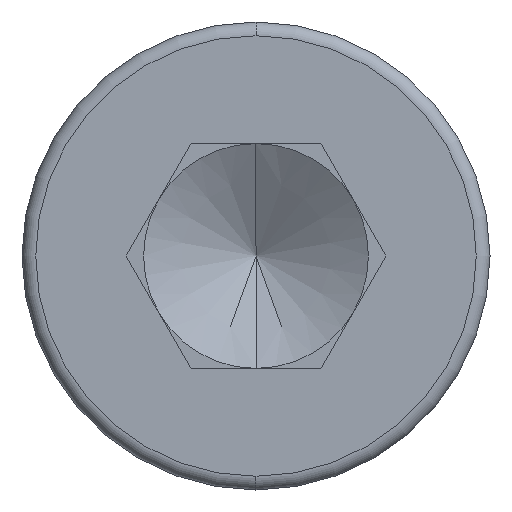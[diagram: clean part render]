
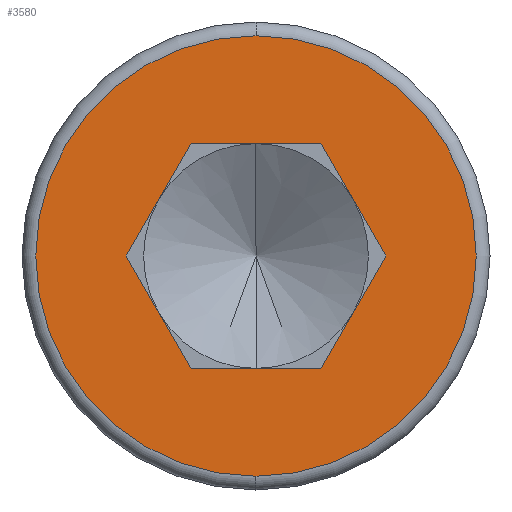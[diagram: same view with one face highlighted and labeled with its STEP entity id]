
A CAD part, left-side view. The second image highlights one B-rep face of the part: STEP entity #3580.
In plain terms, the highlighted planar face has unit normal (-1, 0, 0).
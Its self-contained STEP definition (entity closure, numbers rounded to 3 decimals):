
#23 = ORIENTED_EDGE ( 'NONE', *, *, #9845, .T. ) ;
#56 = VECTOR ( 'NONE', #7558, 1000. ) ;
#94 = CARTESIAN_POINT ( 'NONE',  ( 0., 0., 0. ) ) ;
#553 = CARTESIAN_POINT ( 'NONE',  ( 0., -1.179, 2.042 ) ) ;
#785 = FACE_BOUND ( 'NONE', #8434, .T. ) ;
#892 = CARTESIAN_POINT ( 'NONE',  ( 0., 1.179, -2.042 ) ) ;
#906 = ORIENTED_EDGE ( 'NONE', *, *, #10623, .T. ) ;
#1053 = CARTESIAN_POINT ( 'NONE',  ( 0., 2.358, 0. ) ) ;
#1309 = VECTOR ( 'NONE', #10500, 1000. ) ;
#1498 = CARTESIAN_POINT ( 'NONE',  ( 0., 1.179, 2.042 ) ) ;
#1519 = CARTESIAN_POINT ( 'NONE',  ( 0., 0., 0. ) ) ;
#1588 = DIRECTION ( 'NONE',  ( 0., -0.5, -0.866 ) ) ;
#1863 = ORIENTED_EDGE ( 'NONE', *, *, #9317, .F. ) ;
#2308 = CARTESIAN_POINT ( 'NONE',  ( 0., -2.358, 0. ) ) ;
#2457 = DIRECTION ( 'NONE',  ( 0., -0.5, 0.866 ) ) ;
#2459 = AXIS2_PLACEMENT_3D ( 'NONE', #9592, #3316, #4312 ) ;
#2629 = DIRECTION ( 'NONE',  ( 0., -1., 0. ) ) ;
#2789 = VECTOR ( 'NONE', #10222, 1000. ) ;
#3005 = VERTEX_POINT ( 'NONE', #11430 ) ;
#3152 = LINE ( 'NONE', #7498, #2789 ) ;
#3209 = CARTESIAN_POINT ( 'NONE',  ( 0., 1.179, -2.042 ) ) ;
#3316 = DIRECTION ( 'NONE',  ( -1., 0., 0. ) ) ;
#3580 = ADVANCED_FACE ( 'NONE', ( #785, #5984 ), #5923, .T. ) ;
#3592 = EDGE_CURVE ( 'NONE', #6997, #7562, #6975, .T. ) ;
#3695 = ORIENTED_EDGE ( 'NONE', *, *, #6717, .T. ) ;
#3734 = CARTESIAN_POINT ( 'NONE',  ( 0., 0., -4. ) ) ;
#3756 = VECTOR ( 'NONE', #2457, 1000. ) ;
#4011 = VERTEX_POINT ( 'NONE', #11021 ) ;
#4130 = LINE ( 'NONE', #553, #56 ) ;
#4312 = DIRECTION ( 'NONE',  ( 0., 0., 1. ) ) ;
#4361 = ORIENTED_EDGE ( 'NONE', *, *, #6051, .F. ) ;
#4945 = CARTESIAN_POINT ( 'NONE',  ( 0., -1.179, 2.042 ) ) ;
#4961 = EDGE_CURVE ( 'NONE', #6997, #9346, #3152, .T. ) ;
#5105 = DIRECTION ( 'NONE',  ( -1., 0., 0. ) ) ;
#5412 = DIRECTION ( 'NONE',  ( -1., 0., 0. ) ) ;
#5500 = CIRCLE ( 'NONE', #11061, 4. ) ;
#5923 = PLANE ( 'NONE',  #2459 ) ;
#5984 = FACE_OUTER_BOUND ( 'NONE', #6803, .T. ) ;
#6051 = EDGE_CURVE ( 'NONE', #9346, #3005, #8819, .T. ) ;
#6717 = EDGE_CURVE ( 'NONE', #8658, #3005, #8807, .T. ) ;
#6803 = EDGE_LOOP ( 'NONE', ( #906, #23 ) ) ;
#6975 = LINE ( 'NONE', #9654, #3756 ) ;
#6997 = VERTEX_POINT ( 'NONE', #1053 ) ;
#7052 = CIRCLE ( 'NONE', #11133, 4. ) ;
#7498 = CARTESIAN_POINT ( 'NONE',  ( 0., 2.358, 0. ) ) ;
#7558 = DIRECTION ( 'NONE',  ( 0., 1., 0. ) ) ;
#7562 = VERTEX_POINT ( 'NONE', #1498 ) ;
#7793 = ORIENTED_EDGE ( 'NONE', *, *, #9612, .T. ) ;
#8434 = EDGE_LOOP ( 'NONE', ( #9084, #1863, #7793, #3695, #4361, #10227 ) ) ;
#8581 = DIRECTION ( 'NONE',  ( 0., 0., 1. ) ) ;
#8658 = VERTEX_POINT ( 'NONE', #2308 ) ;
#8807 = LINE ( 'NONE', #10672, #1309 ) ;
#8819 = LINE ( 'NONE', #892, #9812 ) ;
#9084 = ORIENTED_EDGE ( 'NONE', *, *, #3592, .T. ) ;
#9098 = VECTOR ( 'NONE', #1588, 1000. ) ;
#9317 = EDGE_CURVE ( 'NONE', #4011, #7562, #4130, .T. ) ;
#9346 = VERTEX_POINT ( 'NONE', #3209 ) ;
#9533 = LINE ( 'NONE', #4945, #9098 ) ;
#9592 = CARTESIAN_POINT ( 'NONE',  ( 0., 0., 0. ) ) ;
#9612 = EDGE_CURVE ( 'NONE', #4011, #8658, #9533, .T. ) ;
#9654 = CARTESIAN_POINT ( 'NONE',  ( 0., 2.358, 0. ) ) ;
#9713 = DIRECTION ( 'NONE',  ( 0., 0., 1. ) ) ;
#9812 = VECTOR ( 'NONE', #2629, 1000. ) ;
#9845 = EDGE_CURVE ( 'NONE', #10069, #10882, #7052, .T. ) ;
#10069 = VERTEX_POINT ( 'NONE', #3734 ) ;
#10222 = DIRECTION ( 'NONE',  ( 0., -0.5, -0.866 ) ) ;
#10227 = ORIENTED_EDGE ( 'NONE', *, *, #4961, .F. ) ;
#10500 = DIRECTION ( 'NONE',  ( 0., 0.5, -0.866 ) ) ;
#10623 = EDGE_CURVE ( 'NONE', #10882, #10069, #5500, .T. ) ;
#10672 = CARTESIAN_POINT ( 'NONE',  ( 0., -2.358, 0. ) ) ;
#10882 = VERTEX_POINT ( 'NONE', #11415 ) ;
#11021 = CARTESIAN_POINT ( 'NONE',  ( 0., -1.179, 2.042 ) ) ;
#11061 = AXIS2_PLACEMENT_3D ( 'NONE', #1519, #5105, #8581 ) ;
#11133 = AXIS2_PLACEMENT_3D ( 'NONE', #94, #5412, #9713 ) ;
#11415 = CARTESIAN_POINT ( 'NONE',  ( 0., 0., 4. ) ) ;
#11430 = CARTESIAN_POINT ( 'NONE',  ( 0., -1.179, -2.042 ) ) ;
